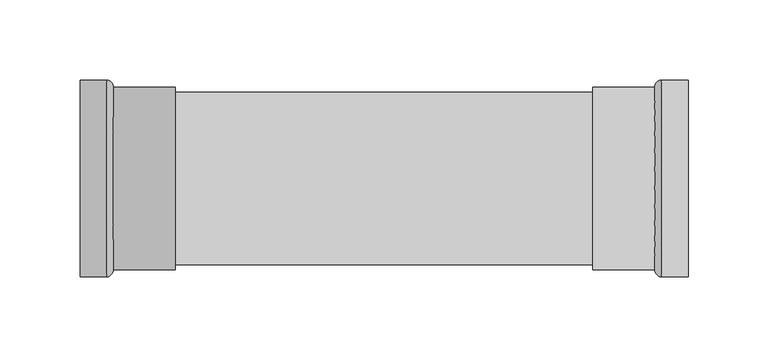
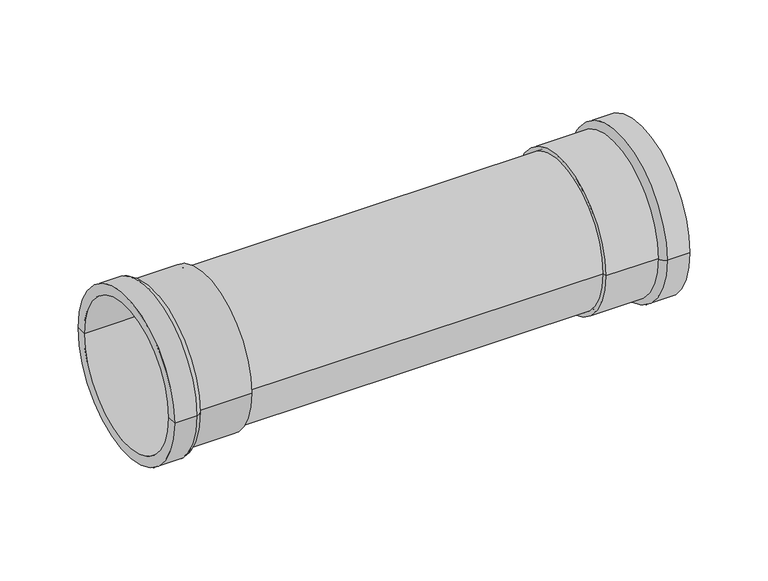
"""IFC4 building model written with IfcOpenShell, lengths in millimetres: pipe fitting geometry, VALTEC_VTi.903.I_Соединитель прямой нержавеющая сталь : VTi.903.I."""

from ifc_helpers import new_model, si_unit, point, frame, origin, origin_2d, place, context, project, spatial, polyline, circle_curve, ellipse_curve, trimmed, segment, composite_curve, outline, extrude, source, transform, mapped, element, save
from ifc_brep_helpers import plane_surface, cylinder_surface, revolved_surface, advanced_brep


def pipe_fitting_6de2905a(model_context):
    return source(origin(), model_context, "Body", "SolidModel", [
        advanced_brep(
        [(0.0, -54.0, 0.0), (0.0, 54.0, 0.0), (0.0, 61.5, 0.0), (0.0, -61.5, 0.0), (59.5, -54.0, 0.0), (59.5, 54.0, 0.0), (59.5, -57.0, 0.0), (59.5, 57.0, 0.0), (20.72, -57.0, 0.0), (20.72, 57.0, 0.0), (16.7, -61.5, 0.0), (16.7, 61.5, 0.0)],
        [
            (0, 1, circle_curve(frame((0.0, 0.0, 0.0), z_axis=(1.0, 0.0, 0.0), x_axis=(0.0, 1.0, 0.0)), 54.0)),
            (1, 2),
            (2, 3, circle_curve(frame((0.0, 0.0, 0.0), z_axis=(-1.0, 0.0, 0.0), x_axis=(0.0, 1.0, 0.0)), 61.5)),
            (3, 0),
            (1, 0, circle_curve(frame((0.0, 0.0, 0.0), z_axis=(1.0, 0.0, 0.0), x_axis=(0.0, 1.0, 0.0)), 54.0)),
            (3, 2, circle_curve(frame((0.0, 0.0, 0.0), z_axis=(-1.0, 0.0, 0.0), x_axis=(0.0, 1.0, 0.0)), 61.5)),
            (4, 5, circle_curve(frame((59.5, 0.0, 0.0), z_axis=(1.0, 0.0, 0.0), x_axis=(0.0, 1.0, 0.0)), 54.0)),
            (5, 1),
            (0, 4),
            (5, 4, circle_curve(frame((59.5, 0.0, 0.0), z_axis=(1.0, 0.0, 0.0), x_axis=(0.0, 1.0, 0.0)), 54.0)),
            (6, 7, circle_curve(frame((59.5, 0.0, 0.0), z_axis=(1.0, 0.0, 0.0), x_axis=(0.0, 1.0, 0.0)), 57.0)),
            (7, 5),
            (4, 6),
            (7, 6, circle_curve(frame((59.5, 0.0, 0.0), z_axis=(1.0, 0.0, 0.0), x_axis=(0.0, 1.0, 0.0)), 57.0)),
            (8, 9, circle_curve(frame((20.72, 0.0, 0.0), z_axis=(1.0, 0.0, 0.0), x_axis=(0.0, 1.0, 0.0)), 57.0)),
            (9, 7),
            (6, 8),
            (9, 8, circle_curve(frame((20.72, 0.0, 0.0), z_axis=(1.0, 0.0, 0.0), x_axis=(0.0, 1.0, 0.0)), 57.0)),
            (10, 11, circle_curve(frame((16.7, 0.0, 0.0), z_axis=(1.0, 0.0, 0.0), x_axis=(0.0, 1.0, 0.0)), 61.5)),
            (11, 9, circle_curve(frame((16.3171026, 57.112345, 0.0), z_axis=(0.0, 0.0, -1.0), x_axis=(1.0, 0.0, 0.0)), 4.4043305)),
            (8, 10, circle_curve(frame((16.3171026, -57.112345, 0.0), z_axis=(0.0, 0.0, -1.0), x_axis=(1.0, 0.0, 0.0)), 4.4043305)),
            (11, 10, circle_curve(frame((16.7, 0.0, 0.0), z_axis=(1.0, 0.0, 0.0), x_axis=(0.0, 1.0, 0.0)), 61.5)),
            (2, 11),
            (10, 3),
        ],
        [
            plane_surface(frame((0.0, 0.0, 0.0), z_axis=(-1.0, 0.0, 0.0), x_axis=(0.0, 1.0, 0.0))),
            revolved_surface(polyline([(0.0, 54.0, 0.0), (59.5, 54.0, 0.0)]), (30.3193608, 0.0, 0.0), (-1.0, 0.0, 0.0)),
            plane_surface(frame((59.5, 0.0, 0.0), z_axis=(1.0, 0.0, 0.0), x_axis=(0.0, 1.0, 0.0))),
            cylinder_surface(frame((30.3193608, 0.0, 0.0), z_axis=(-1.0, 0.0, 0.0), x_axis=(0.0, 1.0, 0.0)), 57.0),
            revolved_surface(trimmed(ellipse_curve(frame((16.3171026, 57.112345, 0.0), z_axis=(0.0, 0.0, 1.0), x_axis=(1.0, 0.0, 0.0)), 4.4043305, 4.4043305), [point((20.72, 57.0, 0.0))], [point((16.7, 61.5, 0.0))], True, "CARTESIAN"), (30.3193608, 0.0, 0.0), (-1.0, 0.0, 0.0)),
            cylinder_surface(frame((30.3193608, 0.0, 0.0), z_axis=(-1.0, 0.0, 0.0), x_axis=(0.0, 1.0, 0.0)), 61.5),
        ],
        [
            (0, [[1, 2, 3, 4]]),
            (0, [[5, -4, 6, -2]]),
            (1, [[7, 8, -1, 9]]),
            (1, [[10, -9, -5, -8]]),
            (2, [[11, 12, -7, 13]]),
            (2, [[14, -13, -10, -12]]),
            (3, [[15, 16, -11, 17]]),
            (3, [[18, -17, -14, -16]]),
            (4, [[19, 20, -15, 21]]),
            (4, [[22, -21, -18, -20]]),
            (5, [[-3, 23, -19, 24]]),
            (5, [[-6, -24, -22, -23]]),
        ],
    ),
        advanced_brep(
        [(380.0, 54.0, 0.0), (380.0, -54.0, 0.0), (380.0, -61.5, 0.0), (380.0, 61.5, 0.0), (320.5, 54.0, 0.0), (320.5, -54.0, 0.0), (320.5, 57.0, 0.0), (320.5, -57.0, 0.0), (359.28, 57.0, 0.0), (359.28, -57.0, 0.0), (363.3, 61.5, 0.0), (363.3, -61.5, 0.0)],
        [
            (0, 1, circle_curve(frame((380.0, 0.0, 0.0), z_axis=(-1.0, 0.0, 0.0), x_axis=(0.0, -1.0, 0.0)), 54.0)),
            (1, 2),
            (2, 3, circle_curve(frame((380.0, 0.0, 0.0), z_axis=(1.0, 0.0, 0.0), x_axis=(0.0, -1.0, 0.0)), 61.5)),
            (3, 0),
            (1, 0, circle_curve(frame((380.0, 0.0, 0.0), z_axis=(-1.0, 0.0, 0.0), x_axis=(0.0, -1.0, 0.0)), 54.0)),
            (3, 2, circle_curve(frame((380.0, 0.0, 0.0), z_axis=(1.0, 0.0, 0.0), x_axis=(0.0, -1.0, 0.0)), 61.5)),
            (4, 5, circle_curve(frame((320.5, 0.0, 0.0), z_axis=(-1.0, 0.0, 0.0), x_axis=(0.0, -1.0, 0.0)), 54.0)),
            (5, 1),
            (0, 4),
            (5, 4, circle_curve(frame((320.5, 0.0, 0.0), z_axis=(-1.0, 0.0, 0.0), x_axis=(0.0, -1.0, 0.0)), 54.0)),
            (6, 7, circle_curve(frame((320.5, 0.0, 0.0), z_axis=(-1.0, 0.0, 0.0), x_axis=(0.0, -1.0, 0.0)), 57.0)),
            (7, 5),
            (4, 6),
            (7, 6, circle_curve(frame((320.5, 0.0, 0.0), z_axis=(-1.0, 0.0, 0.0), x_axis=(0.0, -1.0, 0.0)), 57.0)),
            (8, 9, circle_curve(frame((359.28, 0.0, 0.0), z_axis=(-1.0, 0.0, 0.0), x_axis=(0.0, -1.0, 0.0)), 57.0)),
            (9, 7),
            (6, 8),
            (9, 8, circle_curve(frame((359.28, 0.0, 0.0), z_axis=(-1.0, 0.0, 0.0), x_axis=(0.0, -1.0, 0.0)), 57.0)),
            (10, 11, circle_curve(frame((363.3, 0.0, 0.0), z_axis=(-1.0, 0.0, 0.0), x_axis=(0.0, -1.0, 0.0)), 61.5)),
            (11, 9, circle_curve(frame((363.6828974, -57.112345, 0.0), z_axis=(0.0, 0.0, -1.0), x_axis=(-1.0, 0.0, 0.0)), 4.4043305)),
            (8, 10, circle_curve(frame((363.6828974, 57.112345, 0.0), z_axis=(0.0, 0.0, -1.0), x_axis=(-1.0, 0.0, 0.0)), 4.4043305)),
            (11, 10, circle_curve(frame((363.3, 0.0, 0.0), z_axis=(-1.0, 0.0, 0.0), x_axis=(0.0, -1.0, 0.0)), 61.5)),
            (2, 11),
            (10, 3),
        ],
        [
            plane_surface(frame((380.0, 0.0, 0.0), z_axis=(1.0, 0.0, 0.0), x_axis=(0.0, -1.0, 0.0))),
            revolved_surface(polyline([(380.0, -54.0, 0.0), (320.5, -54.0, 0.0)]), (349.6806392, 0.0, 0.0), (1.0, 0.0, 0.0)),
            plane_surface(frame((320.5, 0.0, 0.0), z_axis=(-1.0, 0.0, 0.0), x_axis=(0.0, -1.0, 0.0))),
            cylinder_surface(frame((349.6806392, 0.0, 0.0), z_axis=(1.0, 0.0, 0.0), x_axis=(0.0, -1.0, 0.0)), 57.0),
            revolved_surface(trimmed(ellipse_curve(frame((363.6828974, -57.112345, 0.0), z_axis=(0.0, 0.0, 1.0), x_axis=(-1.0, 0.0, 0.0)), 4.4043305, 4.4043305), [point((359.28, -57.0, 0.0))], [point((363.3, -61.5, 0.0))], True, "CARTESIAN"), (349.6806392, 0.0, 0.0), (1.0, 0.0, 0.0)),
            cylinder_surface(frame((349.6806392, 0.0, 0.0), z_axis=(1.0, 0.0, 0.0), x_axis=(0.0, -1.0, 0.0)), 61.5),
        ],
        [
            (0, [[1, 2, 3, 4]]),
            (0, [[5, -4, 6, -2]]),
            (1, [[7, 8, -1, 9]]),
            (1, [[10, -9, -5, -8]]),
            (2, [[11, 12, -7, 13]]),
            (2, [[14, -13, -10, -12]]),
            (3, [[15, 16, -11, 17]]),
            (3, [[18, -17, -14, -16]]),
            (4, [[19, 20, -15, 21]]),
            (4, [[22, -21, -18, -20]]),
            (5, [[-3, 23, -19, 24]]),
            (5, [[-6, -24, -22, -23]]),
        ],
    ),
        extrude(outline(composite_curve([segment(trimmed(circle_curve(origin_2d(), 54.0), [point((-54.0, 0.0))], [point((54.0, 0.0))], False, "CARTESIAN"), True, "CONTINUOUS"), segment(trimmed(circle_curve(origin_2d(), 54.0), [point((54.0, 0.0))], [point((-54.0, 0.0))], False, "CARTESIAN"), True, "CONTINUOUS")], self_intersect=False)), frame((57.0, 0.0, 0.0), z_axis=(1.0, 0.0, 0.0), x_axis=(0.0, 1.0, 0.0)), (0.0, 0.0, 1.0), 266.0),
    ])


if __name__ == "__main__":
    model = new_model("IFC4")
    model_context = context("Model", 3, world=origin())
    ifc_project = project(units=[si_unit("LENGTHUNIT", "METRE", prefix="MILLI")], contexts=[model_context])
    site = spatial("IfcSite", under=ifc_project)
    building = spatial("IfcBuilding", under=site)
    placement = place(None, origin())
    pipe_fitting_shape = pipe_fitting_6de2905a(model_context)
    element("IfcPipeFitting", 1, ObjectType="VALTEC_VTi.903.I_Соединитель прямой нержавеющая сталь : VTi.903.I", at=placement, inside=building, context=model_context, shape_type="MappedRepresentation", body=[
        mapped(pipe_fitting_shape, transform((0.0, 0.0, 0.0), x_axis=(1.0, 0.0, 0.0), y_axis=(0.0, 1.0, 0.0), z_axis=(0.0, 0.0, 1.0))),
    ])
    save(model, "model.ifc")
